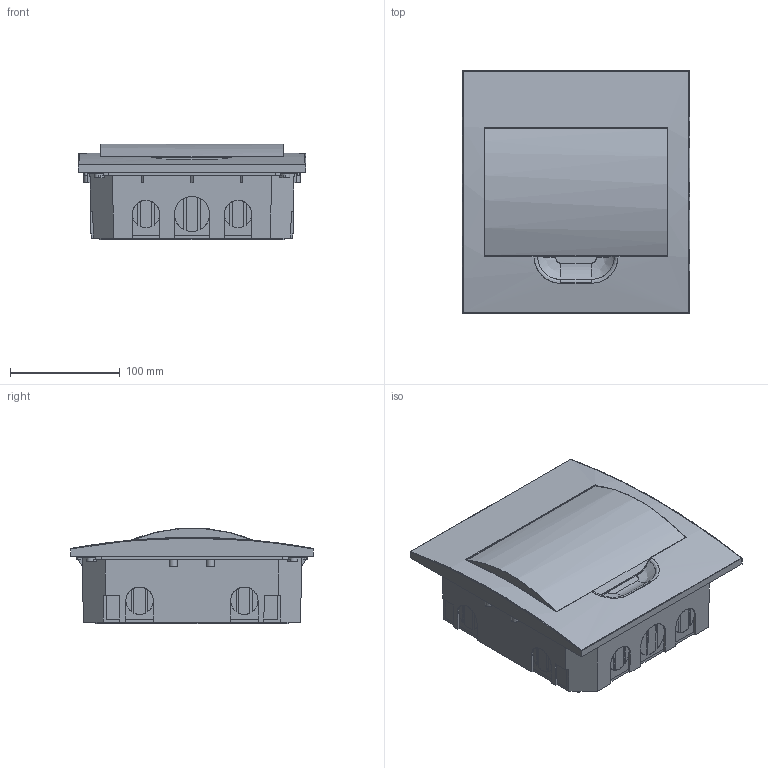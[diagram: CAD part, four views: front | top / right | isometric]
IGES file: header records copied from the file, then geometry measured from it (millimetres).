
Start section: SolidWorks IGES file using analytic representation for surfaces
Global section: file name: C:\Users\Rodrigo\Desktop\weg1\2014\QDW02\QDW02 E&F\QDW02-E\QDW02-8-E\conversão\QDW02-8-E.IGS; native system: SolidWorks 2012; preprocessor: SolidWorks 2012; author: Rodrigo; date: 140213.103145; units: millimetre
Bounding box: 207 x 221 x 87.07 mm (x, y, z)
Surface area: 302337.3 mm2 (no closed solid volume)
Topology: 0 solids, 0 shells, 523 faces, 5187 edges, 5187 vertices
Faces by surface type: bspline 377, revolution 146
